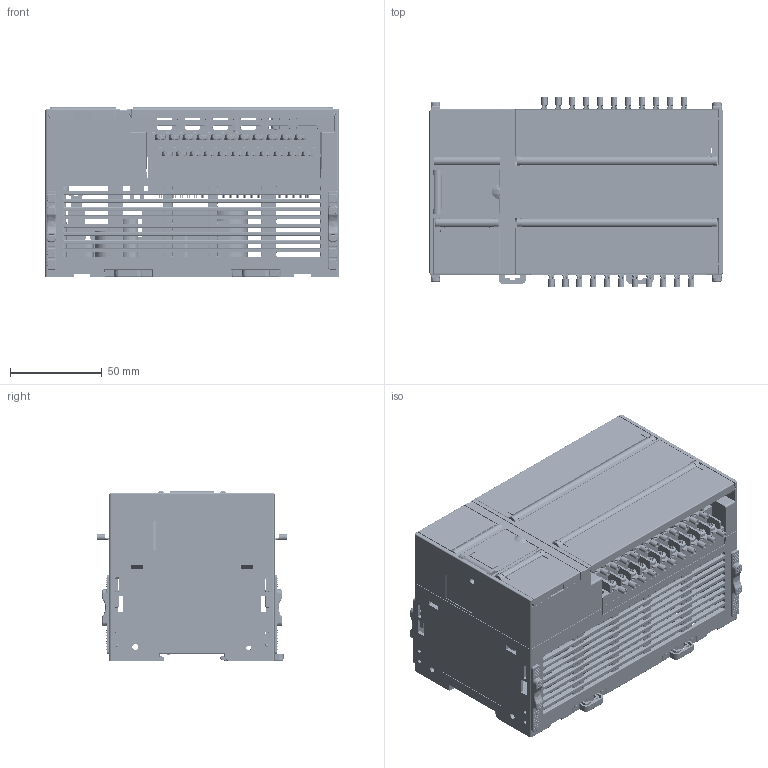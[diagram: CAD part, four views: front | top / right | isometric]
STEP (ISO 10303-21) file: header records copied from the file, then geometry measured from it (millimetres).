
FILE_DESCRIPTION((''),'2;1');
FILE_NAME('0-VC3-1616MAT-ASM_ASM','2022-11-11T',('v3615'),(''),'CREO PARAMETRIC BY PTC INC, 2016260','CREO PARAMETRIC BY PTC INC, 2016260','');
FILE_SCHEMA(('AUTOMOTIVE_DESIGN { 1 0 10303 214 1 1 1 1 }'));
Products named in the file (69): VC3-1616MAT-P001; VC3-1616MAT-P002; VC1-1614MAT-P005; VC1-1614MAT-P007; VC3-1616MAT-P004_ASM; VC3-1616MAT-P003; VC3-1616MAT-P005_ASM; VC3-3232MAT-P004; VC1-1614MAT-P003; VC1-1614MAT-P004; VC1-1614MAT-P006; VC1-1614MAT-P008; VC1-1614MAT-P009; VC1-1614MAT-P010; VC3-1616MAT-P_ASM; PRT0002; SOP4-100-173A; CAPC2-80-200-440; SD1812; F2-200B; LR4-280-320; SOT23; SR0603; SOP8-50-157; SD2215; SC0805; TO220-3L-9; SOP8-50-155; DO2-170-110-48; LC2-197A; SR1206; CAP2-400-13X5; HEAD0207-TA; TO220-3T-B; CAPC2-400-1000-1000-F; CAP2-400-10X8; SC0603; SR0805; CAP2-400-7X7; CAPC2-200-400-500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
Assembly tree (185 placements, depth 6):
  0-VC3-1616MAT-ASM_ASM
    VC3-1616MAT-P_ASM
      VC3-1616MAT-P001
      VC3-1616MAT-P004_ASM
        VC3-1616MAT-P002
        VC1-1614MAT-P005  x2
        VC1-1614MAT-P007
      VC3-1616MAT-P005_ASM
        VC3-1616MAT-P003
        VC1-1614MAT-P005  x2
        VC1-1614MAT-P007
      VC3-3232MAT-P004
      VC1-1614MAT-P003
      VC1-1614MAT-P004  x2
      VC1-1614MAT-P006  x2
      VC1-1614MAT-P008
      VC1-1614MAT-P009
      VC1-1614MAT-P010  x4
    VC3-1616MAT-D_ASM
      XXX1-ARAC1_ASM
        PRT0002
        SOP4-100-173A  x2
        CAPC2-80-200-440
        SD1812  x2
        F2-200B
        LR4-280-320
        SOT23  x4
        SR0603  x7
        SOP8-50-157
        SD2215
        SC0805  x14
        TO220-3L-9
        SOP8-50-155
        DO2-170-110-48  x2
        LC2-197A
        SR1206  x8
        CAP2-400-13X5  x2
        HEAD0207-TA
        TO220-3T-B
        CAPC2-400-1000-1000-F
        CAP2-400-10X8
        SC0603  x8
        SR0805  x24
        CAP2-400-7X7
        CAPC2-200-400-500  x2
        SC1206  x2
        T12-200-1200C
        CAPC2-200-400-800
        CAP2-400-13X4
        TB762
        1420050941-VC1AC30POW-A1_1-0712
      VC3-1616MAT-MID_ASM
        VC3-1616MAT-MID
        IDC14-90
        IDC14-ORM-A
        PRT0015
        BA1D5-10-7D62-12_ASM  x2
          BA1D5-10-7D62-12
          M3X8_GB818-2000
          ELT-SNBS-1_25-4_ASM
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Bounding box: 160.19 x 104.1 x 92.9 mm (x, y, z)
Volume: 447038.5 mm3; surface area: 427442.3 mm2
Topology: 221 solids, 228 shells, 14104 faces, 36583 edges, 23377 vertices
Faces by surface type: plane 7659, cylinder 3855, torus 1252, bspline 633, cone 541, sphere 152, extrusion 12
Entity records: 385996 total; most frequent: CARTESIAN_POINT 72840, ORIENTED_EDGE 48512, DIRECTION 45207, EDGE_CURVE 24286, PRESENTATION_STYLE_ASSIGNMENT 21362, STYLED_ITEM 20787, CURVE_STYLE 20566, VECTOR 16517
